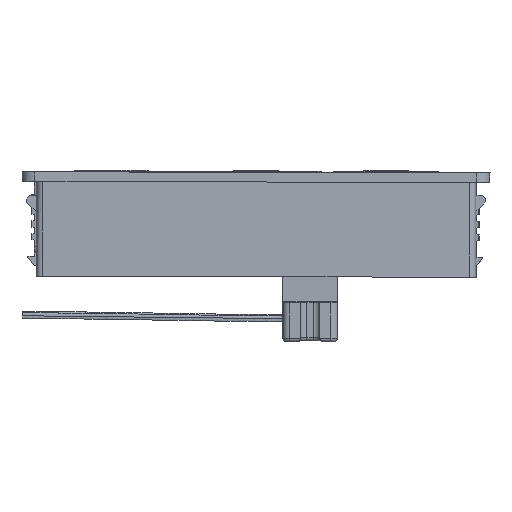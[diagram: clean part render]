
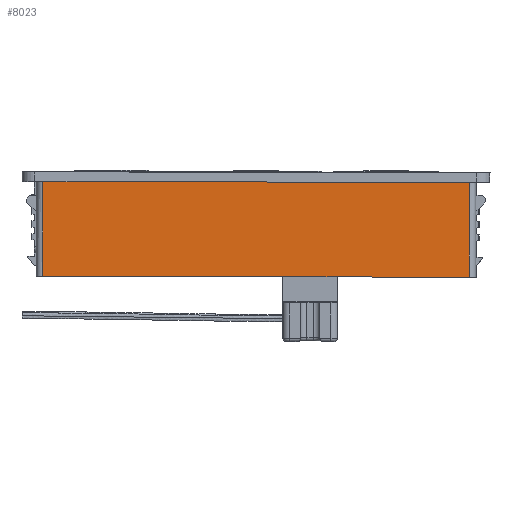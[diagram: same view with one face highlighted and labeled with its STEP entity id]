
A CAD part, front view. The second image highlights one B-rep face of the part: STEP entity #8023.
In plain terms, the highlighted planar face has unit normal (-0.002, -1, 0) as drawn and (0, 1, 0) by its records, which use the part's own axes.
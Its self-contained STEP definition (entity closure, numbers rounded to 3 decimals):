
#6283 = VERTEX_POINT('',#6284);
#6284 = CARTESIAN_POINT('',(1.3,40.,0.));
#6434 = VERTEX_POINT('',#6435);
#6435 = CARTESIAN_POINT('',(67.,40.,0.));
#6442 = EDGE_CURVE('',#6434,#6283,#6443,.T.);
#6443 = LINE('',#6444,#6445);
#6444 = CARTESIAN_POINT('',(68.,40.,0.));
#6445 = VECTOR('',#6446,1.);
#6446 = DIRECTION('',(-1.,0.,0.));
#7996 = EDGE_CURVE('',#6283,#7997,#7999,.T.);
#7997 = VERTEX_POINT('',#7998);
#7998 = CARTESIAN_POINT('',(1.3,40.,14.6));
#7999 = LINE('',#8000,#8001);
#8000 = CARTESIAN_POINT('',(1.3,40.,0.));
#8001 = VECTOR('',#8002,1.);
#8002 = DIRECTION('',(0.,0.,1.));
#8023 = ADVANCED_FACE('',(#8024),#8042,.F.);
#8024 = FACE_BOUND('',#8025,.F.);
#8025 = EDGE_LOOP('',(#8026,#8027,#8035,#8041));
#8026 = ORIENTED_EDGE('',*,*,#6442,.F.);
#8027 = ORIENTED_EDGE('',*,*,#8028,.T.);
#8028 = EDGE_CURVE('',#6434,#8029,#8031,.T.);
#8029 = VERTEX_POINT('',#8030);
#8030 = CARTESIAN_POINT('',(67.,40.,14.6));
#8031 = LINE('',#8032,#8033);
#8032 = CARTESIAN_POINT('',(67.,40.,0.));
#8033 = VECTOR('',#8034,1.);
#8034 = DIRECTION('',(0.,0.,1.));
#8035 = ORIENTED_EDGE('',*,*,#8036,.T.);
#8036 = EDGE_CURVE('',#8029,#7997,#8037,.T.);
#8037 = LINE('',#8038,#8039);
#8038 = CARTESIAN_POINT('',(68.,40.,14.6));
#8039 = VECTOR('',#8040,1.);
#8040 = DIRECTION('',(-1.,0.,0.));
#8041 = ORIENTED_EDGE('',*,*,#7996,.F.);
#8042 = PLANE('',#8043);
#8043 = AXIS2_PLACEMENT_3D('',#8044,#8045,#8046);
#8044 = CARTESIAN_POINT('',(68.,40.,0.));
#8045 = DIRECTION('',(0.,-1.,0.));
#8046 = DIRECTION('',(-1.,0.,0.));
